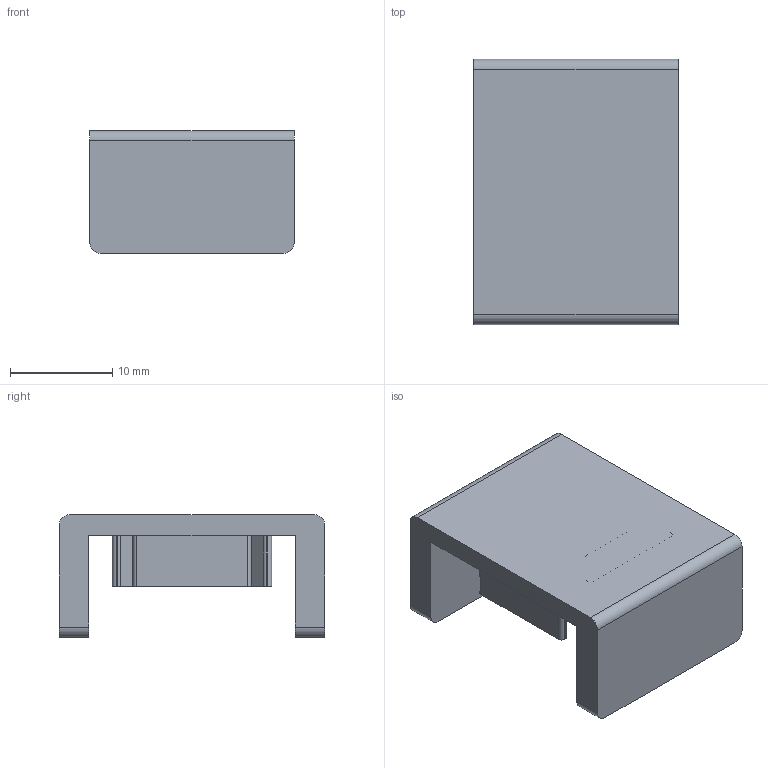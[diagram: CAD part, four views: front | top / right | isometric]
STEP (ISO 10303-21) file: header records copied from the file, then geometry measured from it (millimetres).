
FILE_DESCRIPTION(/* description */ ('','CAx-IF Rec.Pracs.---Representation and Presentation of Product Manufacturing Information (PMI)---4.0---2014-10-13'),/* implementation_level */ '2;1');
FILE_NAME(/* name */ 'tappo_05.stp',/* time_stamp */ '2026-02-28T20:14:35+01:00',/* author */ ('R5800u'),/* organization */ (''),/* preprocessor_version */ 'ST-DEVELOPER v20',/* originating_system */ 'Autodesk Inventor 2025',/* authorisation */ '');
FILE_SCHEMA (('AP242_MANAGED_MODEL_BASED_3D_ENGINEERING_MIM_LF { 1 0 10303 442 1 1 4 }'));
Length unit declared in the file: millimetre
Products named in the file (1): tappo_05
Bounding box: 20 x 26 x 12 mm (x, y, z)
Volume: 2911.9 mm3; surface area: 2762.5 mm2
Topology: 2 solids, 2 shells, 69 faces, 186 edges, 124 vertices
Faces by surface type: plane 39, cylinder 30
Entity records: 2444 total; most frequent: CARTESIAN_POINT 448, DIRECTION 412, ORIENTED_EDGE 372, EDGE_CURVE 186, AXIS2_PLACEMENT_3D 143, LINE 126, VECTOR 126, VERTEX_POINT 124
